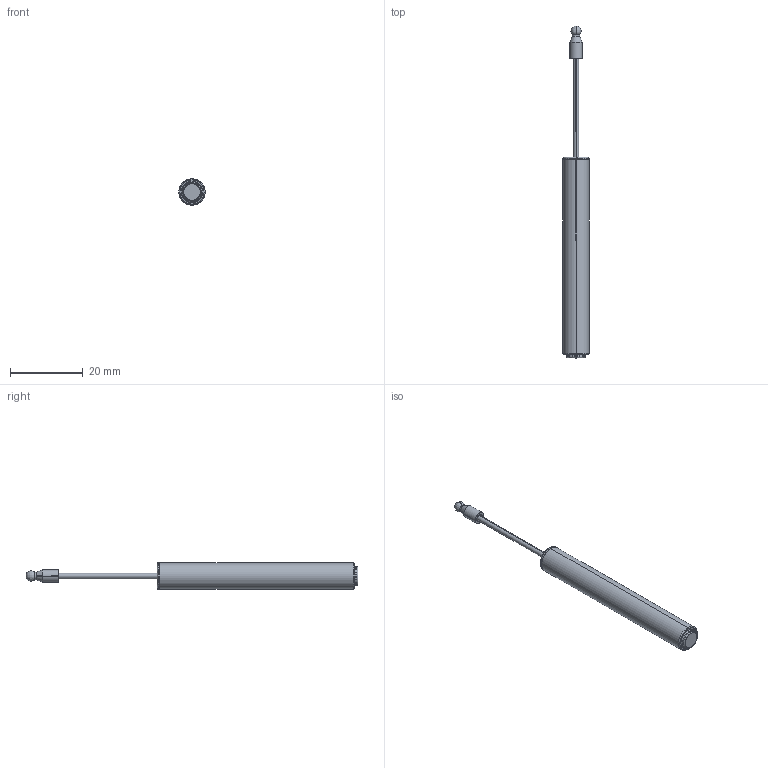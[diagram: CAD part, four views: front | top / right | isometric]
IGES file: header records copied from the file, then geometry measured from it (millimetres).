
Start section: SolidWorks IGES file using analytic representation for surfaces
Bounding box: 7.2 x 91 x 7.2 mm (x, y, z)
Surface area: 1647.8 mm2 (no closed solid volume)
Topology: 0 solids, 0 shells, 31 faces, 380 edges, 378 vertices
Faces by surface type: revolution 18, bspline 13
